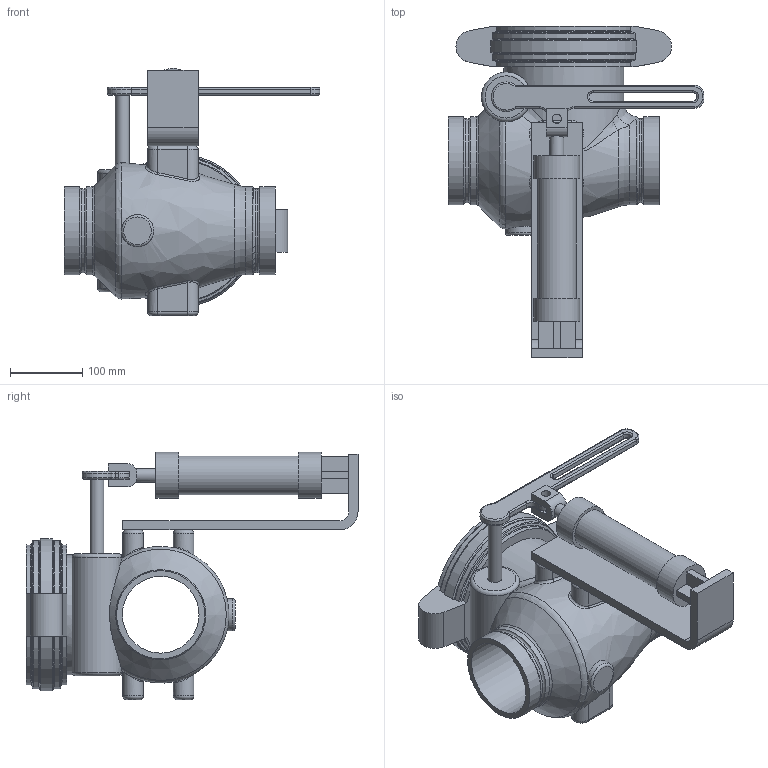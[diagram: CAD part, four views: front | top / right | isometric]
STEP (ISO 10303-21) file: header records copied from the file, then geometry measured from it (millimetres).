
FILE_DESCRIPTION(/* description */ ('VIC AWWA VALVE CHECK AIR CUSHION SERIES 317 (DRG)','CAx-IF Rec.Pracs.---Representation and Presentation of Product Manufacturing Information (PMI)---4.0---2014-10-13'),/* implementation_level */ '2;1');
FILE_NAME(/* name */ 'C:\Users\Vjadhav\Desktop\CAD for Inventor\1\317\STEP\Victaulic_AWWA_Valve Check Air Cushion_Series 317 (DRG)\Victaulic_AWWA_Valve Check Air Cushion_Series 317 (DRG)_4 (100).stp',/* time_stamp */ '2021-10-01T17:33:31+05:00',/* author */ ('jbrannon'),/* organization */ ('Victaulic'),/* preprocessor_version */ 'ST-DEVELOPER v17.2',/* originating_system */ 'Autodesk Inventor 2019',/* authorisation */ '');
FILE_SCHEMA (('AP242_MANAGED_MODEL_BASED_3D_ENGINEERING_MIM_LF { 1 0 10303 442 1 1 4 }'));
Length unit declared in the file: inch
Products named in the file (1): 317-04.0
Bounding box: 353.82 x 458.98 x 341.88 mm (x, y, z)
Volume: 7903917.9 mm3; surface area: 554599.3 mm2
Topology: 1 solids, 1 shells, 233 faces, 605 edges, 382 vertices
Faces by surface type: cylinder 74, plane 71, torus 51, bspline 28, cone 9
Full cylindrical faces by diameter (mm): 12.827 x2, 19.05 x2, 44.45 x1, 53.34 x1, 63.5 x2, 68.58 x1, 106.172 x1, 115.9 x2, 121.92 x3, 165.862 x1
Entity records: 9096 total; most frequent: CARTESIAN_POINT 3118, ORIENTED_EDGE 1212, DIRECTION 1191, EDGE_CURVE 606, AXIS2_PLACEMENT_3D 480, VERTEX_POINT 382, CIRCLE 261, EDGE_LOOP 254
